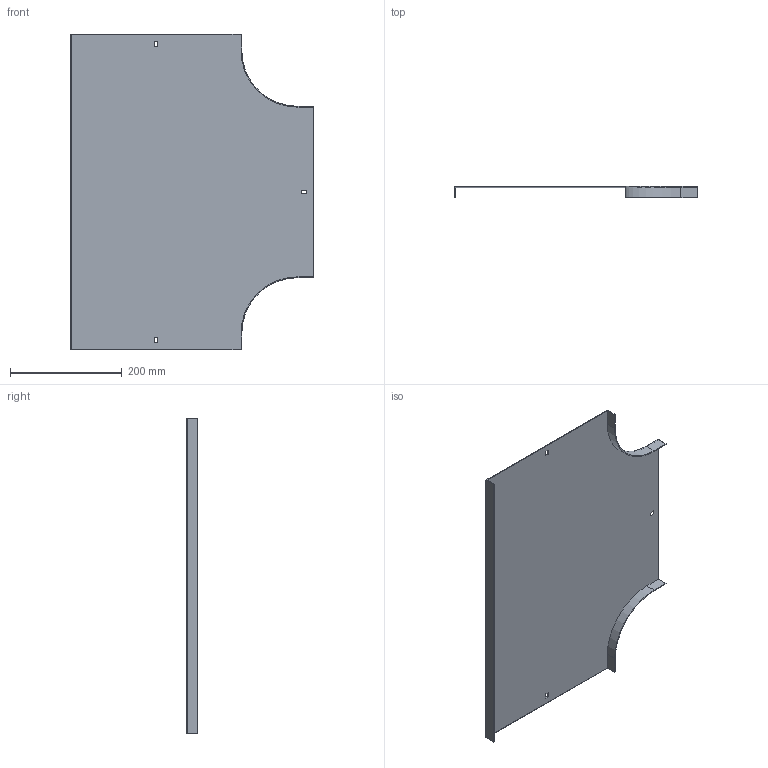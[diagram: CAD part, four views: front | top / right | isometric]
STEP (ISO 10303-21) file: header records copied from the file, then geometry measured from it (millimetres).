
FILE_DESCRIPTION (( 'STEP AP214' ), '1' );
FILE_NAME ('15G1R300.step', '2025-02-21T13:02:46', ( '' ), ( '' ), 'SwSTEP 2.0', 'SolidWorks 2023', '' );
FILE_SCHEMA (( 'AUTOMOTIVE_DESIGN' ));
Length unit declared in the file: millimetre
Products named in the file (1): 15G1R300
Bounding box: 435.5 x 20 x 564 mm (x, y, z)
Volume: 352512.9 mm3; surface area: 473194.9 mm2
Topology: 1 solids, 1 shells, 34 faces, 96 edges, 64 vertices
Faces by surface type: plane 30, cylinder 4
Entity records: 1123 total; most frequent: CARTESIAN_POINT 195, ORIENTED_EDGE 192, DIRECTION 174, EDGE_CURVE 96, LINE 88, VECTOR 88, VERTEX_POINT 64, AXIS2_PLACEMENT_3D 43
